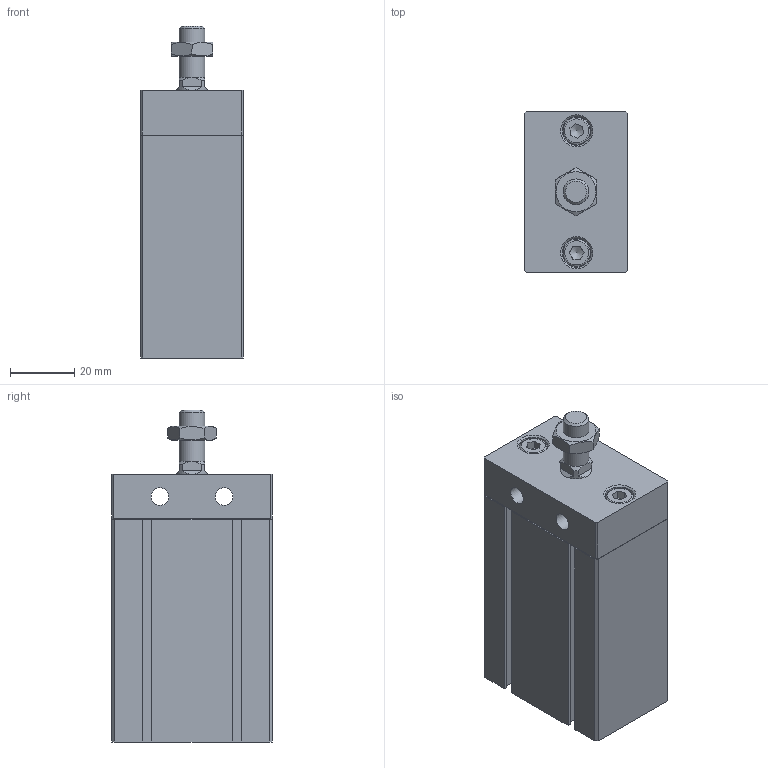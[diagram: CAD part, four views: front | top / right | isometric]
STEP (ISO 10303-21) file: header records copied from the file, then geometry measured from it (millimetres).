
FILE_DESCRIPTION((''),'2;1');
FILE_NAME('I:\3D電子目錄\氣缸\ND\ND\ND25-B\ND25x40-B.stp','2007-07-24T19:24:13',('Administrator'),(''),'Autodesk Inventor 11','Autodesk Inventor 11','');
FILE_SCHEMA(('AUTOMOTIVE_DESIGN { 1 0 10303 214 1 1 1 1 }'));
Length unit declared in the file: millimetre
Products named in the file (4): ND25-B; ISO 4762 M5 x 12; R 形環 28
Assembly tree (4 placements, depth 2):
  ND25-B
    ND25-B
    ISO 4762 M5 x 12  x2
    R 形環 28
Bounding box: 32 x 50.1 x 103.5 mm (x, y, z)
Volume: 124490.2 mm3; surface area: 25937.8 mm2
Topology: 5 solids, 5 shells, 177 faces, 411 edges, 261 vertices
Faces by surface type: plane 113, cylinder 27, cone 20, bspline 14, torus 3
Full cylindrical faces by diameter (mm): 1.5 x2, 1.9 x2, 5 x2, 5.5 x2, 8 x2, 8.5 x2, 9 x2, 17 x1, 28 x1, 29.4 x1
Entity records: 4577 total; most frequent: CARTESIAN_POINT 975, DIRECTION 714, ORIENTED_EDGE 668, EDGE_CURVE 334, AXIS2_PLACEMENT_3D 249, VERTEX_POINT 236, EDGE_LOOP 228, VECTOR 216
